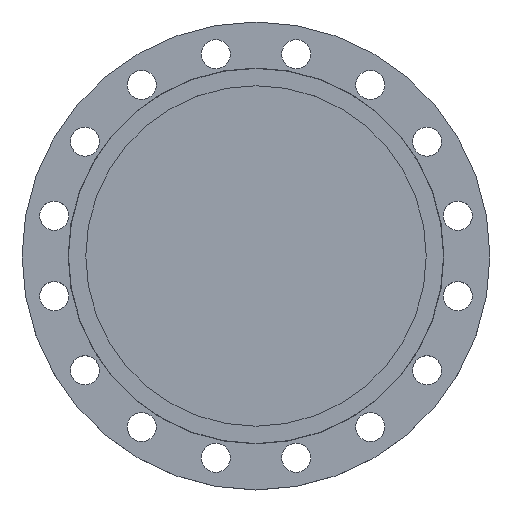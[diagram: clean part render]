
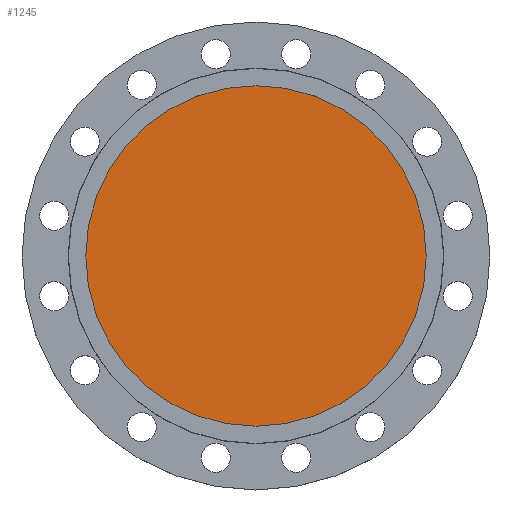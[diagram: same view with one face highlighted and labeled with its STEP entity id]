
A CAD part, top view. The second image highlights one B-rep face of the part: STEP entity #1245.
In plain terms, the highlighted planar face has unit normal (0, 0, 1).
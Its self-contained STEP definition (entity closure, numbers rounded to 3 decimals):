
#124 = EDGE_CURVE ( 'NONE', #1256, #1019, #820, .T. ) ;
#174 = CARTESIAN_POINT ( 'NONE',  ( -211., 0., -5. ) ) ;
#183 = DIRECTION ( 'NONE',  ( 1., 0., 0. ) ) ;
#185 = DIRECTION ( 'NONE',  ( 0., 0., 1. ) ) ;
#187 = CARTESIAN_POINT ( 'NONE',  ( 211., 0., -5. ) ) ;
#189 = PLANE ( 'NONE',  #950 ) ;
#191 = FACE_OUTER_BOUND ( 'NONE', #1370, .T. ) ;
#422 = CARTESIAN_POINT ( 'NONE',  ( 211., 0., -5. ) ) ;
#455 = CIRCLE ( 'NONE', #471, 211. ) ;
#471 = AXIS2_PLACEMENT_3D ( 'NONE', #642, #641, #639 ) ;
#527 = EDGE_CURVE ( 'NONE', #1019, #1256, #455, .T. ) ;
#639 = DIRECTION ( 'NONE',  ( -1., 0., 0. ) ) ;
#641 = DIRECTION ( 'NONE',  ( 0., 0., -1. ) ) ;
#642 = CARTESIAN_POINT ( 'NONE',  ( 0., 0., -5. ) ) ;
#820 = CIRCLE ( 'NONE', #830, 211. ) ;
#830 = AXIS2_PLACEMENT_3D ( 'NONE', #886, #885, #884 ) ;
#884 = DIRECTION ( 'NONE',  ( -1., 0., 0. ) ) ;
#885 = DIRECTION ( 'NONE',  ( 0., 0., -1. ) ) ;
#886 = CARTESIAN_POINT ( 'NONE',  ( 0., 0., -5. ) ) ;
#950 = AXIS2_PLACEMENT_3D ( 'NONE', #187, #185, #183 ) ;
#1019 = VERTEX_POINT ( 'NONE', #422 ) ;
#1165 = ORIENTED_EDGE ( 'NONE', *, *, #527, .F. ) ;
#1180 = ORIENTED_EDGE ( 'NONE', *, *, #124, .F. ) ;
#1245 = ADVANCED_FACE ( 'NONE', ( #191 ), #189, .T. ) ;
#1256 = VERTEX_POINT ( 'NONE', #174 ) ;
#1370 = EDGE_LOOP ( 'NONE', ( #1180, #1165 ) ) ;
